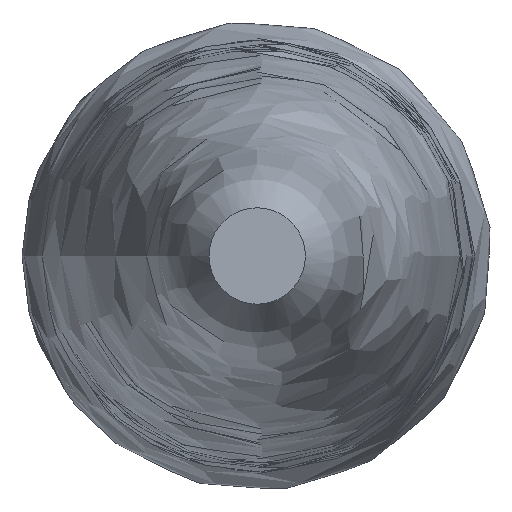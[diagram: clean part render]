
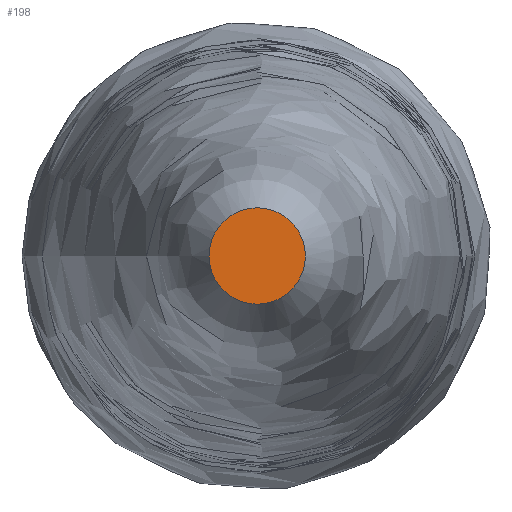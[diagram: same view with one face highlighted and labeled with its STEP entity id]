
A CAD part, left-side view. The second image highlights one B-rep face of the part: STEP entity #198.
In plain terms, the highlighted planar face has unit normal (-1, 0, 0).
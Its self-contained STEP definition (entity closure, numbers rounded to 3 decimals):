
#160=CARTESIAN_POINT('',(200.0,60.8,0.0));
#161=VERTEX_POINT('',#160);
#180=CARTESIAN_POINT('',(200.0,0.0,0.0));
#181=DIRECTION('',(1.0,0.0,0.0));
#182=DIRECTION('',(0.0,1.0,0.0));
#183=AXIS2_PLACEMENT_3D('',#180,#181,#182);
#184=CIRCLE('',#183,60.8);
#185=EDGE_CURVE('',#161,#161,#184,.T.);
#190=CARTESIAN_POINT('',(200.0,30.4,0.0));
#191=DIRECTION('',(-1.0,0.0,0.0));
#192=DIRECTION('',(0.0,0.0,1.0));
#193=AXIS2_PLACEMENT_3D('',#190,#191,#192);
#194=PLANE('',#193);
#195=ORIENTED_EDGE('',*,*,#185,.F.);
#196=EDGE_LOOP('',(#195));
#197=FACE_OUTER_BOUND('',#196,.T.);
#198=ADVANCED_FACE('',(#197),#194,.T.);
